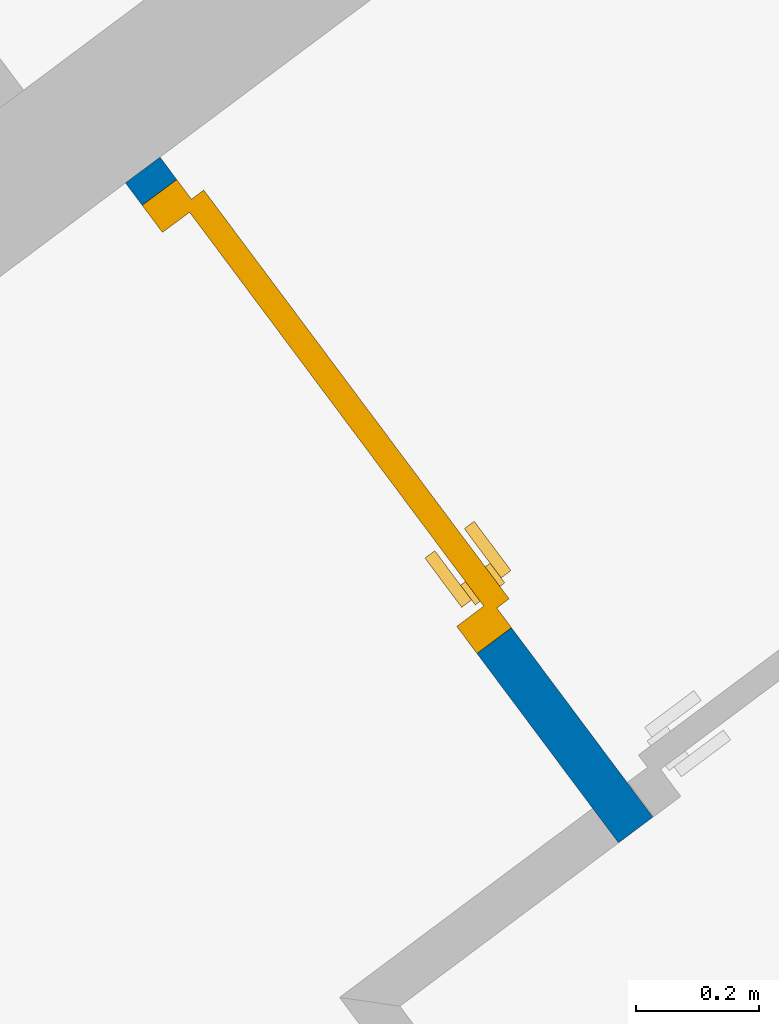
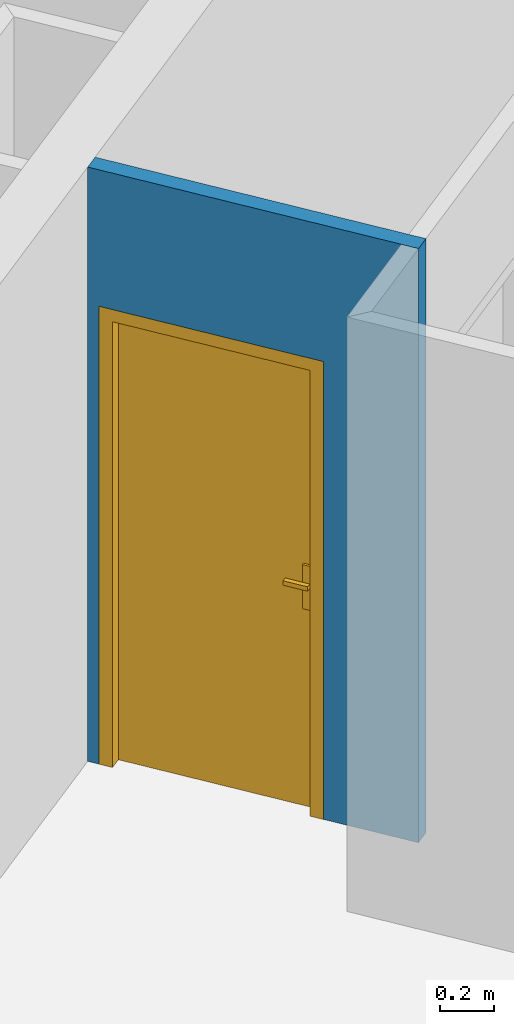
# One storey, part 4 of 121: 1 door, 1 wall, 1 opening.
"""IFC2X3 building model written with IfcOpenShell, lengths in metres."""

from ifc_helpers import new_model, entity, si_unit, converted_unit, derived_unit, money_unit, direction, frame, origin_with_axes, origin_2d_with_axis, place, context, subcontext, project, spatial, polyline, rectangle, outline, extrude, faceted_brep, source, transform, mapped, material, layer, layer_set, layer_usage, type_object, element, fill, save


model = new_model("IFC2X3")

# Units and contexts
model_context = context("Model", 3, precision=1e-05, world=origin_with_axes(), true_north=direction((0.0, 1.0)))
body_context = subcontext(model_context, "Body", "Model", "MODEL_VIEW")
ifc_project = project(units=[si_unit("LENGTHUNIT", "METRE"), si_unit("AREAUNIT", "SQUARE_METRE"), si_unit("VOLUMEUNIT", "CUBIC_METRE"), converted_unit("PLANEANGLEUNIT", "DEGREE", entity("IfcPlaneAngleMeasure", 0.0174532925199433), si_unit("PLANEANGLEUNIT", "RADIAN"), dimensions=[0, 0, 0, 0, 0, 0, 0]), money_unit("CHF"), converted_unit("TIMEUNIT", "Year", entity("IfcTimeMeasure", 31557600.0), si_unit("TIMEUNIT", "SECOND"), dimensions=[0, 0, 1, 0, 0, 0, 0]), si_unit("MASSUNIT", "GRAM", prefix="KILO"), si_unit("THERMODYNAMICTEMPERATUREUNIT", "DEGREE_CELSIUS"), si_unit("LUMINOUSINTENSITYUNIT", "LUMEN"), si_unit("ENERGYUNIT", "JOULE", prefix="MEGA"), derived_unit("THERMALCONDUCTANCEUNIT", [(si_unit("POWERUNIT", "WATT"), 1), (si_unit("LENGTHUNIT", "METRE"), -1), (si_unit("THERMODYNAMICTEMPERATUREUNIT", "KELVIN"), -1)]), derived_unit("SPECIFICHEATCAPACITYUNIT", [(si_unit("ENERGYUNIT", "JOULE"), 1), (si_unit("MASSUNIT", "GRAM", prefix="KILO"), -1), (si_unit("THERMODYNAMICTEMPERATUREUNIT", "KELVIN"), -1)]), derived_unit("MASSDENSITYUNIT", [(si_unit("MASSUNIT", "GRAM", prefix="KILO"), 1), (si_unit("VOLUMEUNIT", "CUBIC_METRE"), -1)])], contexts=[model_context])

# Site, building, storey
site_placement = place(None, origin_with_axes())
site = spatial("IfcSite", under=ifc_project, at=site_placement, Name="Site", CompositionType="ELEMENT")
building_placement = place(site_placement, origin_with_axes())
building = spatial("IfcBuilding", under=site, at=building_placement, Name="Bâtiment", CompositionType="ELEMENT")
storey_placement = place(building_placement, frame((0.0, 0.0, 2.75), z_axis=(0.0, 0.0, 1.0), x_axis=(1.0, 0.0, 0.0)))
storey = spatial("IfcBuildingStorey", under=building, at=storey_placement, Name="Etage 1", CompositionType="ELEMENT", Elevation=2.75)

# Wall, opening, door
ifc_material = material(Name="Hachure solide 268963992")
ifc_layer = layer(ifc_material, 0.07, ventilated="UNKNOWN")
ifc_layer_set = layer_set([ifc_layer], Name="Cloison 70 0826278243")
ifc_layer_usage = layer_usage(ifc_layer_set, "AXIS2", "NEGATIVE", 0.0)
wall_type = type_object("IfcWallType", Name="Cloison 70 0826278243 70", PredefinedType="NOTDEFINED")
wall_placement = place(storey_placement, frame((9536.29736293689, -1079.242250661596, 57.7), z_axis=(0.0, 0.0, 1.0), x_axis=(0.5984464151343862, -0.801162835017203, 0.0)))
wall = element("IfcWallStandardCase", 1, at=wall_placement, inside=storey, type_object=wall_type, material=ifc_layer_usage, Name="Mur-149", context=body_context, shape_type="SweptSolid", body=[
    extrude(outline(polyline([(0.0, -0.06999999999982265), (1.340122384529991, -0.06999999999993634), (1.340122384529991, 0.0), (0.0, 0.0), (0.0, -0.06999999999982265)])), origin_with_axes(), (0.0, 0.0, 1.0), 2.7),
])
opening_placement = place(wall_placement, frame((0.5005577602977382, 0.0, 0.0), z_axis=(0.0, 0.0, 1.0), x_axis=(1.0, 0.0, 0.0)))
opening = element("IfcOpeningElement", 2, at=opening_placement, cuts=wall, Name="Por-309", context=body_context, shape_type="SweptSolid", body=[
    extrude(rectangle(XDim=0.9099999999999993, YDim=2.079999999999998, at=origin_2d_with_axis()), frame((0.0, -0.06999999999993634, 1.039999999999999), z_axis=(0.0, -1.0, 0.0), x_axis=(-1.0, 0.0, 0.0)), (0.0, 0.0, -1.0), 0.14),
])
door_style = type_object("IfcDoorStyle", Name="Porte_1v", ConstructionType="NOTDEFINED", OperationType="NOTDEFINED", ParameterTakesPrecedence=False, Sizeable=False)
shared_shape = source(origin_with_axes(), body_context, "Body", "Brep", [
    faceted_brep([(-0.455, 0.0, 0.0), (-0.455, 0.0, 2.08), (0.455, 0.0, 2.08), (0.455, 0.0, 0.0), (0.415, 0.0, 0.0), (0.415, 0.0, 2.04), (-0.415, 0.0, 2.04), (-0.415, 0.0, 0.0), (-0.455, -0.07, 0.0), (-0.455, -0.07, 2.08), (0.455, -0.07, 2.08), (0.455, -0.07, 0.0), (0.4, -0.07, 0.0), (0.4, -0.015, 0.0), (0.415, -0.015, 0.0), (0.415, -0.015, 2.04), (-0.415, -0.015, 2.04), (-0.415, -0.015, 0.0), (-0.4, -0.015, 0.0), (-0.4, -0.07, 0.0), (-0.4, -0.07, 2.025), (0.4, -0.07, 2.025), (0.4, -0.015, 2.025), (-0.4, -0.015, 2.025)], [[[0, 1, 2, 3, 4, 5, 6, 7]], [[8, 9, 1, 0]], [[9, 10, 2, 1]], [[10, 11, 3, 2]], [[3, 11, 12, 13, 14, 4]], [[5, 4, 14, 15]], [[6, 5, 15, 16]], [[7, 6, 16, 17]], [[0, 7, 17, 18, 19, 8]], [[19, 20, 21, 12, 11, 10, 9, 8]], [[22, 13, 12, 21]], [[17, 16, 15, 14, 13, 22, 23, 18]], [[18, 23, 20, 19]], [[23, 22, 21, 20]]]),
    faceted_brep([(0.35, -0.015, 0.9), (0.35, -0.015, 1.1), (0.39, -0.015, 1.1), (0.39, -0.015, 0.9), (0.35, -0.025, 0.9), (0.35, -0.025, 1.1), (0.39, -0.025, 1.1), (0.39, -0.025, 0.9)], [[[0, 1, 2, 3]], [[0, 4, 5, 1]], [[1, 5, 6, 2]], [[2, 6, 7, 3]], [[3, 7, 4, 0]], [[7, 6, 5, 4]]]),
    faceted_brep([(0.28, -0.025, 1.0), (0.28, -0.025, 1.02), (0.38, -0.025, 1.02), (0.38, -0.025, 1.0), (0.28, -0.045, 1.0), (0.28, -0.045, 1.02), (0.38, -0.045, 1.02), (0.38, -0.045, 1.0)], [[[0, 1, 2, 3]], [[0, 4, 5, 1]], [[1, 5, 6, 2]], [[2, 6, 7, 3]], [[3, 7, 4, 0]], [[7, 6, 5, 4]]]),
    faceted_brep([(0.35, 0.035, 0.9), (0.35, 0.035, 1.1), (0.39, 0.035, 1.1), (0.39, 0.035, 0.9), (0.35, 0.025, 0.9), (0.35, 0.025, 1.1), (0.39, 0.025, 1.1), (0.39, 0.025, 0.9)], [[[0, 1, 2, 3]], [[0, 4, 5, 1]], [[1, 5, 6, 2]], [[2, 6, 7, 3]], [[3, 7, 4, 0]], [[7, 6, 5, 4]]]),
    faceted_brep([(0.28, 0.05500000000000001, 1.0), (0.28, 0.05500000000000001, 1.02), (0.38, 0.05500000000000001, 1.02), (0.38, 0.05500000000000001, 1.0), (0.28, 0.035, 1.0), (0.28, 0.035, 1.02), (0.38, 0.035, 1.02), (0.38, 0.035, 1.0)], [[[0, 1, 2, 3]], [[0, 4, 5, 1]], [[1, 5, 6, 2]], [[2, 6, 7, 3]], [[3, 7, 4, 0]], [[7, 6, 5, 4]]]),
    faceted_brep([(0.415, 0.025, 0.0), (0.415, -0.015, 0.0), (-0.415, -0.015, 0.0), (-0.415, 0.025, 0.0), (0.415, 0.025, 2.04), (0.415, -0.015, 2.04), (-0.415, -0.015, 2.04), (-0.415, 0.025, 2.04)], [[[0, 1, 2, 3]], [[4, 5, 1, 0]], [[1, 5, 6, 2]], [[3, 2, 6, 7]], [[0, 3, 7, 4]], [[7, 6, 5, 4]]]),
])
door_placement = place(opening_placement, frame((-0.4149999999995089, 0.0, 0.0), z_axis=(0.0, 0.0, 1.0), x_axis=(1.0, 0.0, 0.0)))
door = element("IfcDoor", 3, at=door_placement, inside=storey, type_object=door_style, Name="Por-309", OverallHeight=2.04, OverallWidth=0.83, context=body_context, shape_type="MappedRepresentation", body=[
    mapped(shared_shape, transform((0.4149999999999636, 0.0, 0.0))),
])
fill(opening, door)

save(model, "model.ifc")
